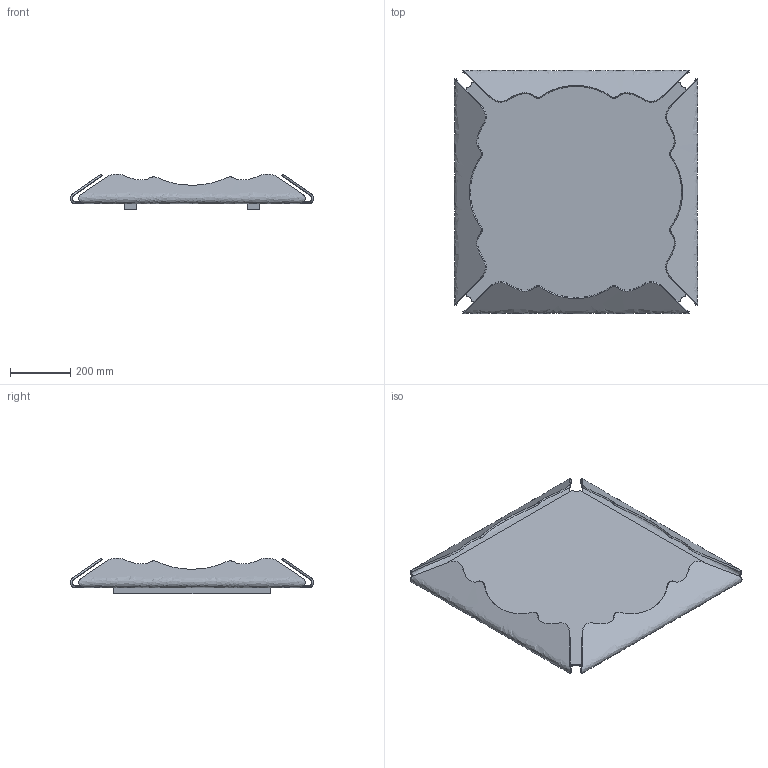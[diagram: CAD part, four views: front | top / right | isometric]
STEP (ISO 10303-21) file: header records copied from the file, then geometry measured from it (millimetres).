
FILE_DESCRIPTION(/* description */ (''),/* implementation_level */ '2;1');
FILE_NAME(/* name */ '342 - Gallery Decor 81x81',/* time_stamp */ '2010-11-02T14:38:51+01:00',/* author */ (''),/* organization */ (''),/* preprocessor_version */ 'ST-DEVELOPER v10',/* originating_system */ '',/* authorisation */ '');
FILE_SCHEMA (('CONFIG_CONTROL_DESIGN'));
Length unit declared in the file: centimetre
Products named in the file (1): 1
Bounding box: 810 x 810 x 119.18 mm (x, y, z)
Volume: 7048322.5 mm3; surface area: 2440179.6 mm2
Topology: 7 solids, 7 shells, 102 faces, 264 edges, 176 vertices
Faces by surface type: bspline 84, plane 18
Entity records: 4340 total; most frequent: CARTESIAN_POINT 2700, ORIENTED_EDGE 528, EDGE_CURVE 264, VERTEX_POINT 176, B_SPLINE_CURVE_WITH_KNOTS 160, EDGE_LOOP 110, ADVANCED_FACE 102, FACE_OUTER_BOUND 102
